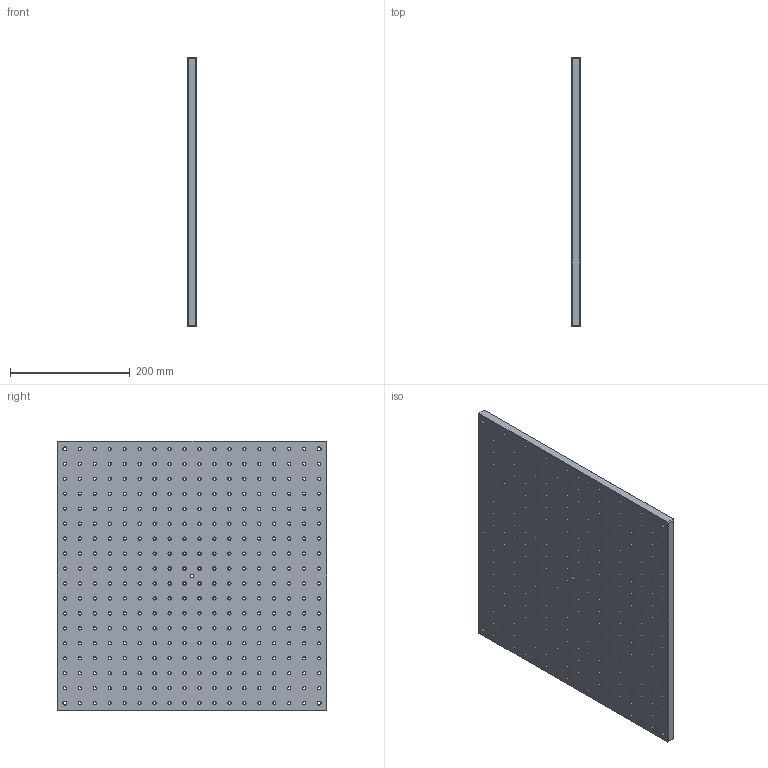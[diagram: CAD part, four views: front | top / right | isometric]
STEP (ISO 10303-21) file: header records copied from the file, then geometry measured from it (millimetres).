
FILE_DESCRIPTION(/* description */ (''),/* implementation_level */ '2;1');
FILE_NAME(/* name */ 'U:\KONSTRUKTORIAI\DOKUMENTACIJA\1\1B-ALE\1B-ALE-45-45-015\step\1B-ALE-45-45-015.stp',/* time_stamp */ '2016-06-15T08:13:27+03:00',/* author */ ('dsgn31'),/* organization */ (''),/* preprocessor_version */ 'ST-DEVELOPER v15.2',/* originating_system */ 'Autodesk Inventor 2014',/* authorisation */ '');
FILE_SCHEMA (('AUTOMOTIVE_DESIGN { 1 0 10303 214 3 1 1 }'));
Length unit declared in the file: millimetre
Products named in the file (1): 1B-ALE-45-45-015.01
Bounding box: 15 x 450 x 450 mm (x, y, z)
Volume: 2939022.9 mm3; surface area: 491912.4 mm2
Topology: 1 solids, 1 shells, 993 faces, 2630 edges, 1644 vertices
Faces by surface type: cone 640, cylinder 330, plane 23
Full cylindrical faces by diameter (mm): 4.917 x320, 6.5 x5, 11 x5
Entity records: 24551 total; most frequent: DIRECTION 4628, CARTESIAN_POINT 3658, ORIENTED_EDGE 2680, EDGE_LOOP 2618, AXIS2_PLACEMENT_3D 2294, FACE_BOUND 1627, EDGE_CURVE 1340, VERTEX_POINT 1324
